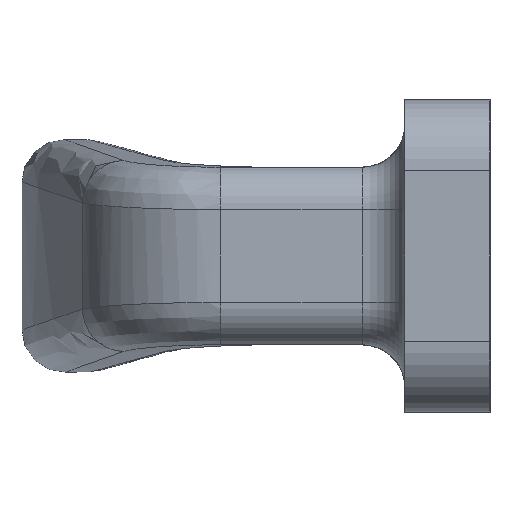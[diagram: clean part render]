
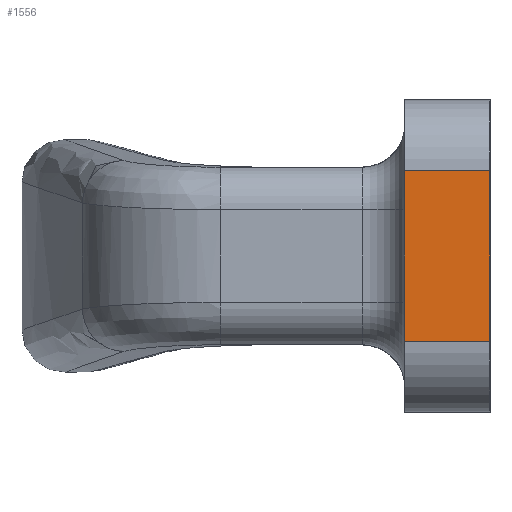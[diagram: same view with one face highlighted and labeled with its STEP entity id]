
A CAD part, left-side view. The second image highlights one B-rep face of the part: STEP entity #1556.
In plain terms, the highlighted planar face has unit normal (-1, 0, 0).
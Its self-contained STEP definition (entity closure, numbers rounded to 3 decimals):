
#63 = CARTESIAN_POINT ( 'NONE',  ( -65., 6., -6. ) ) ;
#156 = DIRECTION ( 'NONE',  ( 1., 0., 0. ) ) ;
#264 = VECTOR ( 'NONE', #1648, 1000. ) ;
#278 = VERTEX_POINT ( 'NONE', #2726 ) ;
#572 = LINE ( 'NONE', #1513, #2788 ) ;
#717 = VERTEX_POINT ( 'NONE', #1860 ) ;
#803 = EDGE_LOOP ( 'NONE', ( #1407, #1390, #2603, #2984 ) ) ;
#824 = CARTESIAN_POINT ( 'NONE',  ( -65., 6., -6. ) ) ;
#849 = FACE_OUTER_BOUND ( 'NONE', #803, .T. ) ;
#935 = CARTESIAN_POINT ( 'NONE',  ( -65., 6., 6. ) ) ;
#1034 = CARTESIAN_POINT ( 'NONE',  ( -65., 0., 6. ) ) ;
#1242 = LINE ( 'NONE', #824, #2710 ) ;
#1390 = ORIENTED_EDGE ( 'NONE', *, *, #1739, .F. ) ;
#1407 = ORIENTED_EDGE ( 'NONE', *, *, #2223, .T. ) ;
#1513 = CARTESIAN_POINT ( 'NONE',  ( -65., 0., -6. ) ) ;
#1530 = LINE ( 'NONE', #2943, #2090 ) ;
#1556 = ADVANCED_FACE ( 'NONE', ( #849 ), #1768, .F. ) ;
#1648 = DIRECTION ( 'NONE',  ( 0., -1., 0. ) ) ;
#1723 = DIRECTION ( 'NONE',  ( 0., -1., 0. ) ) ;
#1739 = EDGE_CURVE ( 'NONE', #278, #2715, #3046, .T. ) ;
#1767 = DIRECTION ( 'NONE',  ( 0., 0., 1. ) ) ;
#1768 = PLANE ( 'NONE',  #2833 ) ;
#1803 = CARTESIAN_POINT ( 'NONE',  ( -65., 6., -6. ) ) ;
#1860 = CARTESIAN_POINT ( 'NONE',  ( -65., 0., -6. ) ) ;
#2052 = DIRECTION ( 'NONE',  ( 0., 0., -1. ) ) ;
#2090 = VECTOR ( 'NONE', #2481, 1000. ) ;
#2223 = EDGE_CURVE ( 'NONE', #717, #2715, #572, .T. ) ;
#2481 = DIRECTION ( 'NONE',  ( 0., 0., 1. ) ) ;
#2603 = ORIENTED_EDGE ( 'NONE', *, *, #2707, .F. ) ;
#2672 = VERTEX_POINT ( 'NONE', #63 ) ;
#2707 = EDGE_CURVE ( 'NONE', #2672, #278, #1530, .T. ) ;
#2710 = VECTOR ( 'NONE', #1723, 1000. ) ;
#2715 = VERTEX_POINT ( 'NONE', #1034 ) ;
#2726 = CARTESIAN_POINT ( 'NONE',  ( -65., 6., 6. ) ) ;
#2745 = EDGE_CURVE ( 'NONE', #2672, #717, #1242, .T. ) ;
#2788 = VECTOR ( 'NONE', #1767, 1000. ) ;
#2833 = AXIS2_PLACEMENT_3D ( 'NONE', #1803, #156, #2052 ) ;
#2943 = CARTESIAN_POINT ( 'NONE',  ( -65., 6., -6. ) ) ;
#2984 = ORIENTED_EDGE ( 'NONE', *, *, #2745, .T. ) ;
#3046 = LINE ( 'NONE', #935, #264 ) ;
